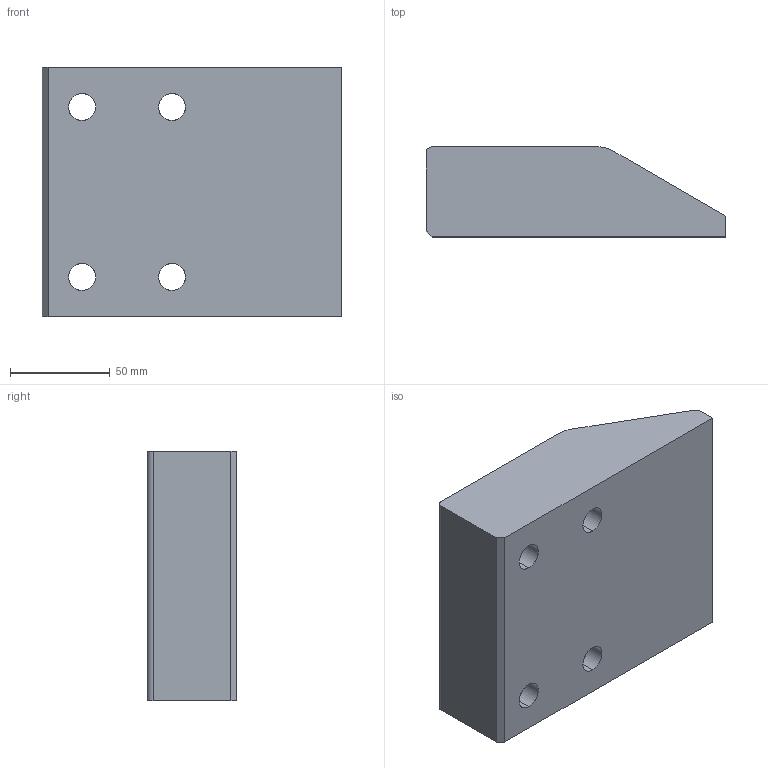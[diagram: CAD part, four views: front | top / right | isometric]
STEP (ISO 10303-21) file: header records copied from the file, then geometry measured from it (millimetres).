
FILE_DESCRIPTION(('CATIA V5 STEP Exchange'),'2;1');
FILE_NAME('C:\Users\Utente\Desktop\3D files A934\A934-12515045.stp','2020-04-17T08:27:33+00:00',('none'),('none'),'CATIA Version 5 Release 20 GA (IN-10)','CATIA V5 STEP AP203','none');
FILE_SCHEMA(('CONFIG_CONTROL_DESIGN'));
Length unit declared in the file: millimetre
Products named in the file (1): Noname
Bounding box: 150 x 45 x 125 mm (x, y, z)
Surface area: 65172.9 mm2 (no closed solid volume)
Topology: 0 solids, 27 shells, 39 faces, 158 edges, 134 vertices
Faces by surface type: cylinder 19, extrusion 12, revolution 8
Entity records: 2132 total; most frequent: CARTESIAN_POINT 870, ORIENTED_EDGE 182, DIRECTION 174, EDGE_CURVE 158, VERTEX_POINT 134, AXIS2_PLACEMENT_3D 82, VECTOR 66, B_SPLINE_CURVE_WITH_KNOTS 62
